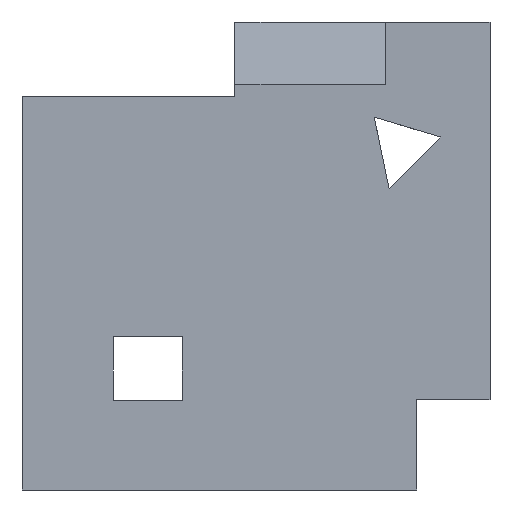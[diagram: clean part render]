
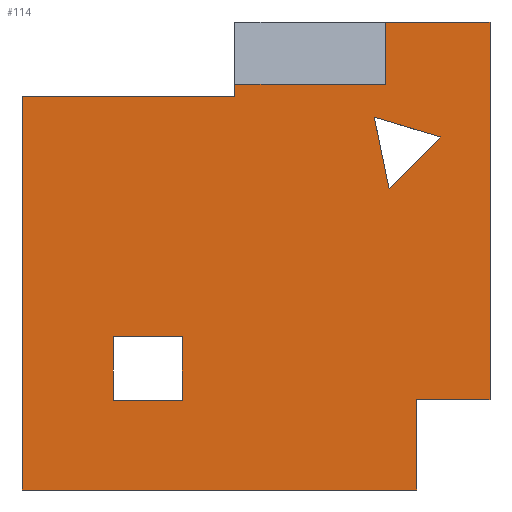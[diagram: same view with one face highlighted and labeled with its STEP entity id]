
A CAD part, front view. The second image highlights one B-rep face of the part: STEP entity #114.
In plain terms, the highlighted planar face has unit normal (0, -1, 0).
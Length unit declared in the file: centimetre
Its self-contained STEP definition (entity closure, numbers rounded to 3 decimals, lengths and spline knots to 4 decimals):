
#7 = EDGE_CURVE ( 'NONE', #62, #802, #648, .T. ) ;
#11 = CARTESIAN_POINT ( 'NONE',  ( 752.7657, 0., 796.8004 ) ) ;
#22 = DIRECTION ( 'NONE',  ( 0., 0., -1. ) ) ;
#23 = VECTOR ( 'NONE', #1090, 100. ) ;
#53 = CARTESIAN_POINT ( 'NONE',  ( 195.0185, 0., 327.5981 ) ) ;
#55 = ORIENTED_EDGE ( 'NONE', *, *, #171, .F. ) ;
#62 = VERTEX_POINT ( 'NONE', #1050 ) ;
#69 = FACE_BOUND ( 'NONE', #397, .T. ) ;
#80 = CARTESIAN_POINT ( 'NONE',  ( 843.9089, 0., 0. ) ) ;
#86 = DIRECTION ( 'NONE',  ( -0.958, 0., 0.288 ) ) ;
#114 = ADVANCED_FACE ( 'NONE', ( #782, #69, #1058 ), #942, .F. ) ;
#120 = CARTESIAN_POINT ( 'NONE',  ( 776.5981, 0., 1000. ) ) ;
#126 = VECTOR ( 'NONE', #1440, 100. ) ;
#141 = EDGE_CURVE ( 'NONE', #502, #686, #822, .T. ) ;
#154 = DIRECTION ( 'NONE',  ( -1., 0., 0. ) ) ;
#157 = ORIENTED_EDGE ( 'NONE', *, *, #881, .F. ) ;
#171 = EDGE_CURVE ( 'NONE', #1166, #1271, #1304, .T. ) ;
#179 = DIRECTION ( 'NONE',  ( 0., 0., 1. ) ) ;
#189 = VECTOR ( 'NONE', #1341, 100. ) ;
#191 = CARTESIAN_POINT ( 'NONE',  ( 784.3191, 0., 644.4628 ) ) ;
#215 = VERTEX_POINT ( 'NONE', #1192 ) ;
#223 = DIRECTION ( 'NONE',  ( 1., 0., 0. ) ) ;
#229 = ORIENTED_EDGE ( 'NONE', *, *, #7, .F. ) ;
#244 = CARTESIAN_POINT ( 'NONE',  ( 0., 0., 0. ) ) ;
#251 = CARTESIAN_POINT ( 'NONE',  ( 776.5981, 0., 866.8435 ) ) ;
#267 = CARTESIAN_POINT ( 'NONE',  ( 454.9293, 0., 840.0946 ) ) ;
#274 = ORIENTED_EDGE ( 'NONE', *, *, #544, .F. ) ;
#298 = VECTOR ( 'NONE', #661, 100. ) ;
#302 = CARTESIAN_POINT ( 'NONE',  ( 843.9089, 0., 192.5408 ) ) ;
#347 = VECTOR ( 'NONE', #1527, 100. ) ;
#375 = CARTESIAN_POINT ( 'NONE',  ( 1000., 0., 1000. ) ) ;
#377 = DIRECTION ( 'NONE',  ( -1., 0., 0. ) ) ;
#388 = VERTEX_POINT ( 'NONE', #608 ) ;
#397 = EDGE_LOOP ( 'NONE', ( #1509, #55, #952 ) ) ;
#412 = CARTESIAN_POINT ( 'NONE',  ( 342.5716, 0., 191.713 ) ) ;
#458 = LINE ( 'NONE', #1427, #764 ) ;
#464 = CARTESIAN_POINT ( 'NONE',  ( 0., 0., 1000. ) ) ;
#486 = LINE ( 'NONE', #251, #347 ) ;
#488 = EDGE_LOOP ( 'NONE', ( #576, #1158, #274, #1465, #973, #1410, #641, #1305, #1091, #157 ) ) ;
#493 = VECTOR ( 'NONE', #1373, 100. ) ;
#497 = VERTEX_POINT ( 'NONE', #1132 ) ;
#502 = VERTEX_POINT ( 'NONE', #1151 ) ;
#531 = DIRECTION ( 'NONE',  ( 0., 1., 0. ) ) ;
#542 = CARTESIAN_POINT ( 'NONE',  ( 784.3191, 0., 644.4628 ) ) ;
#544 = EDGE_CURVE ( 'NONE', #1543, #215, #1002, .T. ) ;
#556 = EDGE_CURVE ( 'NONE', #388, #1104, #1053, .T. ) ;
#561 = EDGE_CURVE ( 'NONE', #686, #1433, #458, .T. ) ;
#562 = VECTOR ( 'NONE', #223, 100. ) ;
#576 = ORIENTED_EDGE ( 'NONE', *, *, #1454, .F. ) ;
#591 = LINE ( 'NONE', #1409, #612 ) ;
#593 = EDGE_CURVE ( 'NONE', #1054, #215, #591, .T. ) ;
#600 = CARTESIAN_POINT ( 'NONE',  ( 454.9293, 0., 840.0946 ) ) ;
#602 = VECTOR ( 'NONE', #1297, 100. ) ;
#608 = CARTESIAN_POINT ( 'NONE',  ( 195.0185, 0., 191.713 ) ) ;
#612 = VECTOR ( 'NONE', #678, 100. ) ;
#614 = LINE ( 'NONE', #375, #1545 ) ;
#638 = LINE ( 'NONE', #464, #1089 ) ;
#641 = ORIENTED_EDGE ( 'NONE', *, *, #561, .F. ) ;
#648 = LINE ( 'NONE', #53, #875 ) ;
#661 = DIRECTION ( 'NONE',  ( 0.707, 0., 0.707 ) ) ;
#678 = DIRECTION ( 'NONE',  ( -1., 0., 0. ) ) ;
#686 = VERTEX_POINT ( 'NONE', #1078 ) ;
#727 = EDGE_CURVE ( 'NONE', #1543, #1128, #856, .T. ) ;
#732 = CARTESIAN_POINT ( 'NONE',  ( 776.5981, 0., 866.8435 ) ) ;
#735 = EDGE_CURVE ( 'NONE', #802, #388, #1094, .T. ) ;
#748 = EDGE_CURVE ( 'NONE', #1128, #1182, #979, .T. ) ;
#749 = CARTESIAN_POINT ( 'NONE',  ( 342.5716, 0., 191.713 ) ) ;
#764 = VECTOR ( 'NONE', #1163, 100. ) ;
#782 = FACE_BOUND ( 'NONE', #838, .T. ) ;
#802 = VERTEX_POINT ( 'NONE', #873 ) ;
#822 = LINE ( 'NONE', #302, #602 ) ;
#833 = DIRECTION ( 'NONE',  ( 0., 0., 1. ) ) ;
#838 = EDGE_LOOP ( 'NONE', ( #1070, #1229, #229, #1479 ) ) ;
#842 = VECTOR ( 'NONE', #86, 100. ) ;
#845 = LINE ( 'NONE', #244, #23 ) ;
#856 = LINE ( 'NONE', #600, #1464 ) ;
#861 = CARTESIAN_POINT ( 'NONE',  ( 1000., 0., 1000. ) ) ;
#873 = CARTESIAN_POINT ( 'NONE',  ( 195.0185, 0., 327.5981 ) ) ;
#875 = VECTOR ( 'NONE', #377, 100. ) ;
#881 = EDGE_CURVE ( 'NONE', #990, #1062, #638, .T. ) ;
#885 = LINE ( 'NONE', #542, #298 ) ;
#899 = CARTESIAN_POINT ( 'NONE',  ( 894.1423, 0., 754.286 ) ) ;
#942 = PLANE ( 'NONE',  #1153 ) ;
#952 = ORIENTED_EDGE ( 'NONE', *, *, #1349, .F. ) ;
#971 = CARTESIAN_POINT ( 'NONE',  ( 195.0185, 0., 191.713 ) ) ;
#973 = ORIENTED_EDGE ( 'NONE', *, *, #748, .T. ) ;
#979 = LINE ( 'NONE', #1205, #189 ) ;
#990 = VERTEX_POINT ( 'NONE', #120 ) ;
#1000 = CARTESIAN_POINT ( 'NONE',  ( 0., 0., 840.0946 ) ) ;
#1002 = LINE ( 'NONE', #1300, #1236 ) ;
#1014 = LINE ( 'NONE', #412, #493 ) ;
#1050 = CARTESIAN_POINT ( 'NONE',  ( 342.5716, 0., 327.5981 ) ) ;
#1053 = LINE ( 'NONE', #1528, #562 ) ;
#1054 = VERTEX_POINT ( 'NONE', #732 ) ;
#1058 = FACE_OUTER_BOUND ( 'NONE', #488, .T. ) ;
#1062 = VERTEX_POINT ( 'NONE', #861 ) ;
#1070 = ORIENTED_EDGE ( 'NONE', *, *, #556, .F. ) ;
#1071 = EDGE_CURVE ( 'NONE', #1062, #502, #614, .T. ) ;
#1078 = CARTESIAN_POINT ( 'NONE',  ( 843.9089, 0., 192.5408 ) ) ;
#1089 = VECTOR ( 'NONE', #1299, 100. ) ;
#1090 = DIRECTION ( 'NONE',  ( 1., 0., 0. ) ) ;
#1091 = ORIENTED_EDGE ( 'NONE', *, *, #1071, .F. ) ;
#1094 = LINE ( 'NONE', #971, #1335 ) ;
#1104 = VERTEX_POINT ( 'NONE', #749 ) ;
#1128 = VERTEX_POINT ( 'NONE', #1000 ) ;
#1132 = CARTESIAN_POINT ( 'NONE',  ( 894.1423, 0., 754.286 ) ) ;
#1137 = CARTESIAN_POINT ( 'NONE',  ( 0., 0., 0. ) ) ;
#1151 = CARTESIAN_POINT ( 'NONE',  ( 1000., 0., 192.5408 ) ) ;
#1153 = AXIS2_PLACEMENT_3D ( 'NONE', #1495, #531, #179 ) ;
#1158 = ORIENTED_EDGE ( 'NONE', *, *, #593, .T. ) ;
#1163 = DIRECTION ( 'NONE',  ( 0., 0., -1. ) ) ;
#1166 = VERTEX_POINT ( 'NONE', #11 ) ;
#1182 = VERTEX_POINT ( 'NONE', #1137 ) ;
#1192 = CARTESIAN_POINT ( 'NONE',  ( 454.9293, 0., 866.8435 ) ) ;
#1198 = EDGE_CURVE ( 'NONE', #1271, #497, #885, .T. ) ;
#1205 = CARTESIAN_POINT ( 'NONE',  ( 0., 0., 1000. ) ) ;
#1229 = ORIENTED_EDGE ( 'NONE', *, *, #735, .F. ) ;
#1232 = EDGE_CURVE ( 'NONE', #1104, #62, #1014, .T. ) ;
#1236 = VECTOR ( 'NONE', #833, 100. ) ;
#1271 = VERTEX_POINT ( 'NONE', #191 ) ;
#1297 = DIRECTION ( 'NONE',  ( -1., 0., 0. ) ) ;
#1299 = DIRECTION ( 'NONE',  ( 1., 0., 0. ) ) ;
#1300 = CARTESIAN_POINT ( 'NONE',  ( 454.9293, 0., 840.0946 ) ) ;
#1304 = LINE ( 'NONE', #1424, #126 ) ;
#1305 = ORIENTED_EDGE ( 'NONE', *, *, #141, .F. ) ;
#1322 = DIRECTION ( 'NONE',  ( 0., 0., -1. ) ) ;
#1335 = VECTOR ( 'NONE', #22, 100. ) ;
#1341 = DIRECTION ( 'NONE',  ( 0., 0., -1. ) ) ;
#1349 = EDGE_CURVE ( 'NONE', #497, #1166, #1501, .T. ) ;
#1373 = DIRECTION ( 'NONE',  ( 0., 0., 1. ) ) ;
#1409 = CARTESIAN_POINT ( 'NONE',  ( 776.5981, 0., 866.8435 ) ) ;
#1410 = ORIENTED_EDGE ( 'NONE', *, *, #1422, .T. ) ;
#1422 = EDGE_CURVE ( 'NONE', #1182, #1433, #845, .T. ) ;
#1424 = CARTESIAN_POINT ( 'NONE',  ( 752.7657, 0., 796.8004 ) ) ;
#1427 = CARTESIAN_POINT ( 'NONE',  ( 843.9089, 0., 192.5408 ) ) ;
#1433 = VERTEX_POINT ( 'NONE', #80 ) ;
#1440 = DIRECTION ( 'NONE',  ( 0.203, 0., -0.979 ) ) ;
#1454 = EDGE_CURVE ( 'NONE', #1054, #990, #486, .T. ) ;
#1464 = VECTOR ( 'NONE', #154, 100. ) ;
#1465 = ORIENTED_EDGE ( 'NONE', *, *, #727, .T. ) ;
#1479 = ORIENTED_EDGE ( 'NONE', *, *, #1232, .F. ) ;
#1495 = CARTESIAN_POINT ( 'NONE',  ( 0., 0., 1000. ) ) ;
#1501 = LINE ( 'NONE', #899, #842 ) ;
#1509 = ORIENTED_EDGE ( 'NONE', *, *, #1198, .F. ) ;
#1527 = DIRECTION ( 'NONE',  ( 0., 0., 1. ) ) ;
#1528 = CARTESIAN_POINT ( 'NONE',  ( 195.0185, 0., 191.713 ) ) ;
#1543 = VERTEX_POINT ( 'NONE', #267 ) ;
#1545 = VECTOR ( 'NONE', #1322, 100. ) ;
